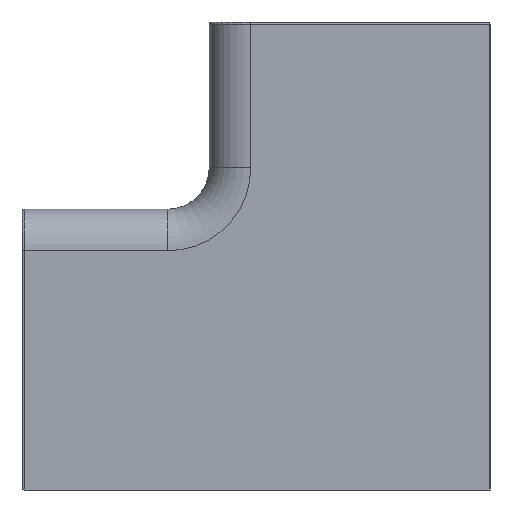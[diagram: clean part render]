
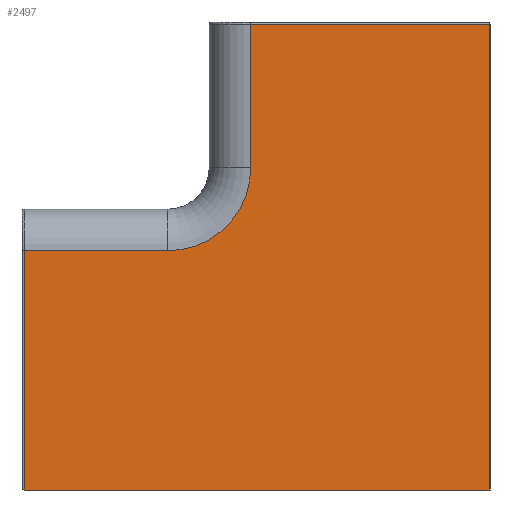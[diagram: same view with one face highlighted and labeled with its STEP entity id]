
A CAD part, left-side view. The second image highlights one B-rep face of the part: STEP entity #2497.
In plain terms, the highlighted planar face has unit normal (-1, 0, 0).
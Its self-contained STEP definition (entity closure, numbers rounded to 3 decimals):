
#155 = EDGE_LOOP ( 'NONE', ( #1716, #2114, #1573, #1632, #223, #725, #2525 ) ) ;
#223 = ORIENTED_EDGE ( 'NONE', *, *, #1122, .T. ) ;
#274 = DIRECTION ( 'NONE',  ( 0., 1., 0. ) ) ;
#281 = CARTESIAN_POINT ( 'NONE',  ( -48., 31., -14. ) ) ;
#422 = VERTEX_POINT ( 'NONE', #1403 ) ;
#454 = EDGE_CURVE ( 'NONE', #917, #2511, #1022, .T. ) ;
#622 = LINE ( 'NONE', #2013, #1714 ) ;
#625 = FACE_OUTER_BOUND ( 'NONE', #155, .T. ) ;
#637 = VERTEX_POINT ( 'NONE', #712 ) ;
#641 = LINE ( 'NONE', #1101, #984 ) ;
#700 = LINE ( 'NONE', #2309, #2019 ) ;
#712 = CARTESIAN_POINT ( 'NONE',  ( -48., 44.8, -22. ) ) ;
#725 = ORIENTED_EDGE ( 'NONE', *, *, #1187, .F. ) ;
#730 = DIRECTION ( 'NONE',  ( 0., 1., 0. ) ) ;
#852 = VECTOR ( 'NONE', #1097, 1000. ) ;
#917 = VERTEX_POINT ( 'NONE', #2031 ) ;
#922 = DIRECTION ( 'NONE',  ( 0., 0., -1. ) ) ;
#924 = CARTESIAN_POINT ( 'NONE',  ( -48., 23., -14. ) ) ;
#940 = AXIS2_PLACEMENT_3D ( 'NONE', #2606, #1272, #274 ) ;
#978 = LINE ( 'NONE', #2553, #2103 ) ;
#984 = VECTOR ( 'NONE', #2107, 1000. ) ;
#1022 = CIRCLE ( 'NONE', #1844, 8. ) ;
#1064 = CARTESIAN_POINT ( 'NONE',  ( -48., 23., -0.2 ) ) ;
#1097 = DIRECTION ( 'NONE',  ( 0., 0., 1. ) ) ;
#1101 = CARTESIAN_POINT ( 'NONE',  ( -48., 44.8, -25.217 ) ) ;
#1116 = CARTESIAN_POINT ( 'NONE',  ( -48., 0., -45. ) ) ;
#1122 = EDGE_CURVE ( 'NONE', #1539, #1761, #700, .T. ) ;
#1133 = VERTEX_POINT ( 'NONE', #2602 ) ;
#1187 = EDGE_CURVE ( 'NONE', #2511, #1761, #1526, .T. ) ;
#1193 = CARTESIAN_POINT ( 'NONE',  ( -48., 0., -0.2 ) ) ;
#1272 = DIRECTION ( 'NONE',  ( -1., 0., 0. ) ) ;
#1403 = CARTESIAN_POINT ( 'NONE',  ( -48., 0., -45. ) ) ;
#1453 = EDGE_CURVE ( 'NONE', #422, #1133, #1490, .T. ) ;
#1459 = PLANE ( 'NONE',  #940 ) ;
#1490 = LINE ( 'NONE', #1116, #1753 ) ;
#1526 = LINE ( 'NONE', #924, #852 ) ;
#1539 = VERTEX_POINT ( 'NONE', #1193 ) ;
#1573 = ORIENTED_EDGE ( 'NONE', *, *, #1453, .F. ) ;
#1632 = ORIENTED_EDGE ( 'NONE', *, *, #1682, .F. ) ;
#1640 = EDGE_CURVE ( 'NONE', #637, #917, #622, .T. ) ;
#1682 = EDGE_CURVE ( 'NONE', #1539, #422, #978, .T. ) ;
#1711 = DIRECTION ( 'NONE',  ( 0., 1., 0. ) ) ;
#1714 = VECTOR ( 'NONE', #1823, 1000. ) ;
#1716 = ORIENTED_EDGE ( 'NONE', *, *, #1640, .F. ) ;
#1753 = VECTOR ( 'NONE', #1711, 1000. ) ;
#1761 = VERTEX_POINT ( 'NONE', #1064 ) ;
#1823 = DIRECTION ( 'NONE',  ( 0., -1., 0. ) ) ;
#1844 = AXIS2_PLACEMENT_3D ( 'NONE', #281, #1875, #922 ) ;
#1875 = DIRECTION ( 'NONE',  ( -1., 0., 0. ) ) ;
#1915 = CARTESIAN_POINT ( 'NONE',  ( -48., 23., -14. ) ) ;
#2013 = CARTESIAN_POINT ( 'NONE',  ( -48., 45., -22. ) ) ;
#2019 = VECTOR ( 'NONE', #730, 1000. ) ;
#2031 = CARTESIAN_POINT ( 'NONE',  ( -48., 31., -22. ) ) ;
#2103 = VECTOR ( 'NONE', #2167, 1000. ) ;
#2107 = DIRECTION ( 'NONE',  ( 0., 0., -1. ) ) ;
#2114 = ORIENTED_EDGE ( 'NONE', *, *, #2283, .T. ) ;
#2167 = DIRECTION ( 'NONE',  ( 0., 0., -1. ) ) ;
#2283 = EDGE_CURVE ( 'NONE', #637, #1133, #641, .T. ) ;
#2309 = CARTESIAN_POINT ( 'NONE',  ( -48., 19.783, -0.2 ) ) ;
#2497 = ADVANCED_FACE ( 'NONE', ( #625 ), #1459, .T. ) ;
#2511 = VERTEX_POINT ( 'NONE', #1915 ) ;
#2525 = ORIENTED_EDGE ( 'NONE', *, *, #454, .F. ) ;
#2553 = CARTESIAN_POINT ( 'NONE',  ( -48., 0., 0. ) ) ;
#2602 = CARTESIAN_POINT ( 'NONE',  ( -48., 44.8, -45. ) ) ;
#2606 = CARTESIAN_POINT ( 'NONE',  ( -48., 19.783, -25.217 ) ) ;
